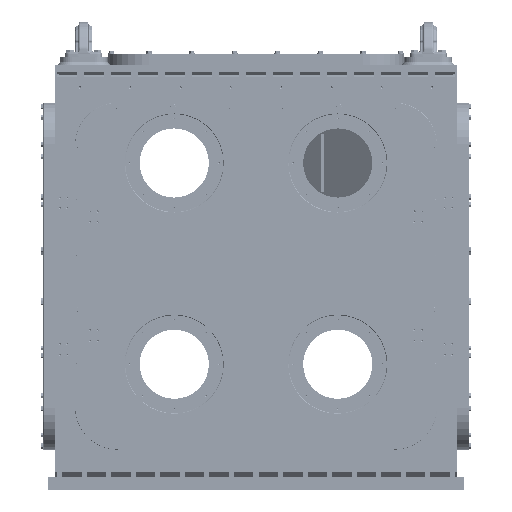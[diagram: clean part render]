
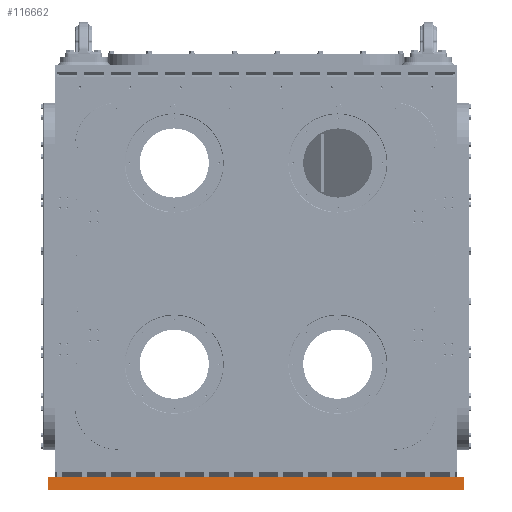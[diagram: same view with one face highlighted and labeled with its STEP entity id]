
A CAD part, left-side view. The second image highlights one B-rep face of the part: STEP entity #116662.
In plain terms, the highlighted planar face has unit normal (-1, 0, 0).
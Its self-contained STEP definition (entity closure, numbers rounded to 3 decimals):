
#4126=LINE('',#158862,#10304);
#4127=LINE('',#158864,#10305);
#4128=LINE('',#158866,#10306);
#4129=LINE('',#158868,#10307);
#10304=VECTOR('',#132549,1000.);
#10305=VECTOR('',#132552,1000.);
#10306=VECTOR('',#132553,1000.);
#10307=VECTOR('',#132554,1000.);
#16478=PLANE('',#122334);
#18823=ORIENTED_EDGE('',*,*,#39648,.F.);
#18824=ORIENTED_EDGE('',*,*,#39647,.F.);
#18825=ORIENTED_EDGE('',*,*,#39649,.T.);
#18826=ORIENTED_EDGE('',*,*,#39650,.T.);
#39647=EDGE_CURVE('',#50059,#50058,#4126,.T.);
#39648=EDGE_CURVE('',#50058,#50060,#4127,.T.);
#39649=EDGE_CURVE('',#50059,#50061,#4128,.T.);
#39650=EDGE_CURVE('',#50061,#50060,#4129,.T.);
#50058=VERTEX_POINT('',#158859);
#50059=VERTEX_POINT('',#158861);
#50060=VERTEX_POINT('',#158865);
#50061=VERTEX_POINT('',#158867);
#62032=EDGE_LOOP('',(#18823,#18824,#18825,#18826));
#70448=FACE_BOUND('',#62032,.T.);
#116662=ADVANCED_FACE('',(#70448),#16478,.T.);
#122334=AXIS2_PLACEMENT_3D('',#158863,#132550,#132551);
#132549=DIRECTION('',(0.,0.,-1.));
#132550=DIRECTION('',(-1.,0.,0.));
#132551=DIRECTION('',(0.,0.,1.));
#132552=DIRECTION('',(0.,1.,0.));
#132553=DIRECTION('',(0.,1.,0.));
#132554=DIRECTION('',(0.,0.,-1.));
#158859=CARTESIAN_POINT('',(-1625.,-825.,-25.));
#158861=CARTESIAN_POINT('',(-1625.,-825.,25.));
#158862=CARTESIAN_POINT('',(-1625.,-825.,25.));
#158863=CARTESIAN_POINT('',(-1625.,-825.,25.));
#158864=CARTESIAN_POINT('',(-1625.,-825.,-25.));
#158865=CARTESIAN_POINT('',(-1625.,825.,-25.));
#158866=CARTESIAN_POINT('',(-1625.,-825.,25.));
#158867=CARTESIAN_POINT('',(-1625.,825.,25.));
#158868=CARTESIAN_POINT('',(-1625.,825.,25.));
